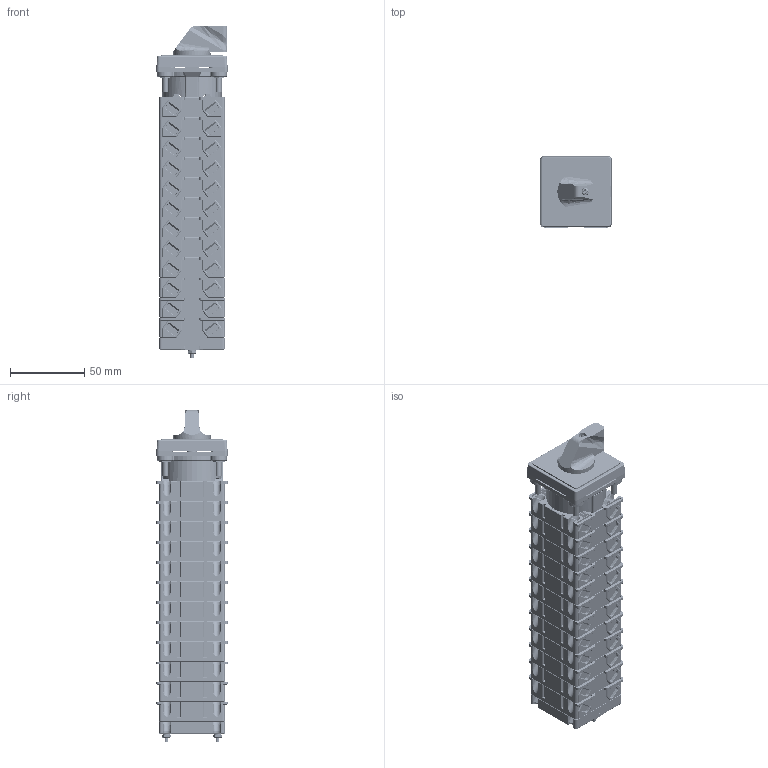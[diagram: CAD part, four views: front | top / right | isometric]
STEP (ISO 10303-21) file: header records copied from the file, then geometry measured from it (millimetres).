
FILE_DESCRIPTION (( 'STEP AP214' ), '1' );
FILE_NAME ('Ïåðåêëþ÷àòåëü 4G10-XXXX-U-R012,R014,S24 12ê.STEP', '2022-11-24T08:12:50', ( '' ), ( '' ), 'SwSTEP 2.0', 'SolidWorks 2018', '' );
FILE_SCHEMA (( 'AUTOMOTIVE_DESIGN' ));
Length unit declared in the file: millimetre
Products named in the file (1): Ïåðåêëþ÷àòåëü 4G10-XXXX-U-R012,R014,S24 12ê
Bounding box: 48 x 48 x 223.6 mm (x, y, z)
Volume: 356939.3 mm3; surface area: 141862.7 mm2
Topology: 44 solids, 140 shells, 9538 faces, 24397 edges, 15466 vertices
Faces by surface type: plane 5441, cylinder 3047, torus 468, cone 379, bspline 151, sphere 52
Entity records: 404212 total; most frequent: CARTESIAN_POINT 70067, ORIENTED_EDGE 48680, DIRECTION 46725, EDGE_CURVE 24340, LINE 16547, VECTOR 16547, VERTEX_POINT 15454, AXIS2_PLACEMENT_3D 15089
